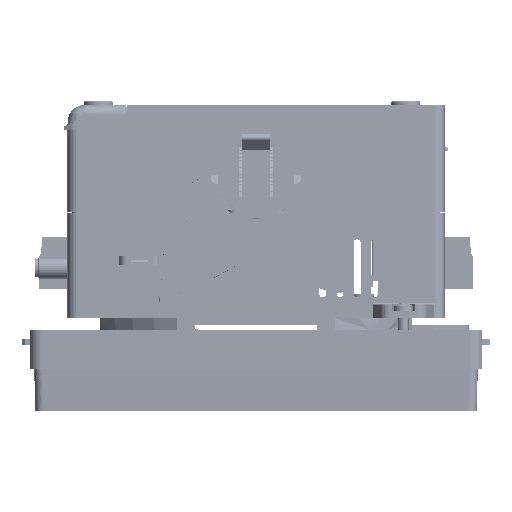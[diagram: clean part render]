
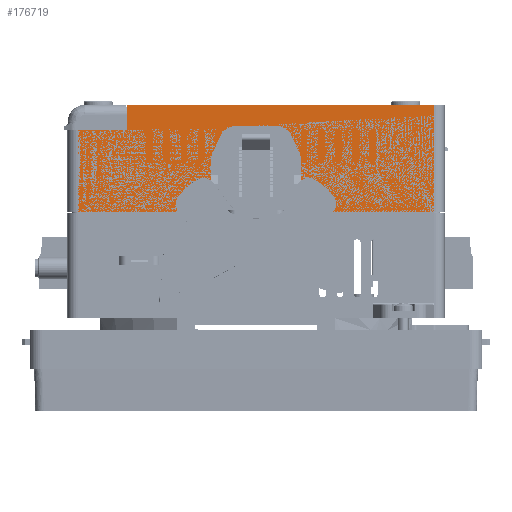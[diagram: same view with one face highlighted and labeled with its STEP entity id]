
A CAD part, left-side view. The second image highlights one B-rep face of the part: STEP entity #176719.
In plain terms, the highlighted planar face has unit normal (-1, 0, 0).
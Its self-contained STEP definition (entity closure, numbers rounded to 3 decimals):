
#7643=FACE_OUTER_BOUND('',#17493,.T.);
#17493=EDGE_LOOP('',(#123885,#123886,#123887,#123888,#123889,#123890));
#30569=LINE('',#258261,#50439);
#30570=LINE('',#258263,#50440);
#30571=LINE('',#258265,#50441);
#30572=LINE('',#258267,#50442);
#30573=LINE('',#258269,#50443);
#30574=LINE('',#258270,#50444);
#50439=VECTOR('',#207747,89.491);
#50440=VECTOR('',#207748,7.201);
#50441=VECTOR('',#207749,14.383);
#50442=VECTOR('',#207750,24.1);
#50443=VECTOR('',#207751,104.);
#50444=VECTOR('',#207752,31.3);
#73609=VERTEX_POINT('',#258259);
#73610=VERTEX_POINT('',#258260);
#73611=VERTEX_POINT('',#258262);
#73612=VERTEX_POINT('',#258264);
#73613=VERTEX_POINT('',#258266);
#73614=VERTEX_POINT('',#258268);
#92535=EDGE_CURVE('',#73609,#73610,#30569,.T.);
#92536=EDGE_CURVE('',#73611,#73609,#30570,.T.);
#92537=EDGE_CURVE('',#73612,#73611,#30571,.T.);
#92538=EDGE_CURVE('',#73612,#73613,#30572,.T.);
#92539=EDGE_CURVE('',#73614,#73613,#30573,.T.);
#92540=EDGE_CURVE('',#73610,#73614,#30574,.T.);
#123885=ORIENTED_EDGE('',*,*,#92535,.F.);
#123886=ORIENTED_EDGE('',*,*,#92536,.F.);
#123887=ORIENTED_EDGE('',*,*,#92537,.F.);
#123888=ORIENTED_EDGE('',*,*,#92538,.T.);
#123889=ORIENTED_EDGE('',*,*,#92539,.F.);
#123890=ORIENTED_EDGE('',*,*,#92540,.F.);
#169418=PLANE('',#187559);
#176719=ADVANCED_FACE('',(#7643),#169418,.T.);
#187559=AXIS2_PLACEMENT_3D('',#258258,#207745,#207746);
#207745=DIRECTION('center_axis',(-1.,0.,0.));
#207746=DIRECTION('ref_axis',(0.,-1.,0.));
#207747=DIRECTION('',(0.,-1.,0.));
#207748=DIRECTION('',(0.,-0.017,1.));
#207749=DIRECTION('',(0.,-1.,0.));
#207750=DIRECTION('',(0.,0.,-1.));
#207751=DIRECTION('',(0.,1.,0.));
#207752=DIRECTION('',(0.,0.,-1.));
#258258=CARTESIAN_POINT('Origin',(-80.,55.,0.));
#258259=CARTESIAN_POINT('',(-80.,37.491,61.7));
#258260=CARTESIAN_POINT('',(-80.,-52.,61.7));
#258261=CARTESIAN_POINT('',(-80.,37.491,61.7));
#258262=CARTESIAN_POINT('',(-80.,37.617,54.5));
#258263=CARTESIAN_POINT('',(-80.,37.617,54.5));
#258264=CARTESIAN_POINT('',(-80.,52.,54.5));
#258265=CARTESIAN_POINT('',(-80.,52.,54.5));
#258266=CARTESIAN_POINT('',(-80.,52.,30.4));
#258267=CARTESIAN_POINT('',(-80.,52.,54.5));
#258268=CARTESIAN_POINT('',(-80.,-52.,30.4));
#258269=CARTESIAN_POINT('',(-80.,-52.,30.4));
#258270=CARTESIAN_POINT('',(-80.,-52.,61.7));
